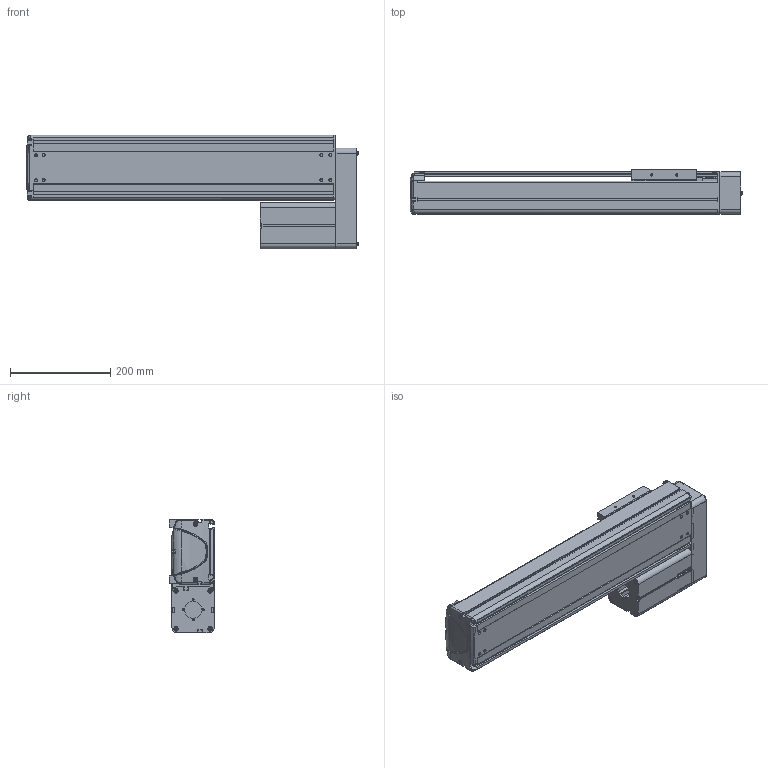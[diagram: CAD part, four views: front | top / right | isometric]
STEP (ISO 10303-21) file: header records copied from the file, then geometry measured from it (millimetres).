
FILE_DESCRIPTION((''),'2;1');
FILE_NAME('BE30E-UL-M_N-40_IGS_PRT','2017-06-17T',(' '),(''),'PRO/ENGINEER BY PARAMETRIC TECHNOLOGY CORPORATION, 2015030','PRO/ENGINEER BY PARAMETRIC TECHNOLOGY CORPORATION, 2015030','');
FILE_SCHEMA(('CONFIG_CONTROL_DESIGN'));
Products named in the file (1): BE30E-UL-M_N-40_IGS_PRT
Bounding box: 661.9 x 89.8 x 227 mm (x, y, z)
Volume: 2472702.3 mm3; surface area: 1067255.5 mm2
Topology: 2 solids, 108 shells, 1971 faces, 5283 edges, 3422 vertices
Faces by surface type: plane 990, cylinder 785, cone 103, torus 39, bspline 30, sphere 24
Entity records: 63493 total; most frequent: CARTESIAN_POINT 13382, DIRECTION 10591, ORIENTED_EDGE 10090, EDGE_CURVE 5245, AXIS2_PLACEMENT_3D 3706, VERTEX_POINT 3422, VECTOR 3179, LINE 3179
